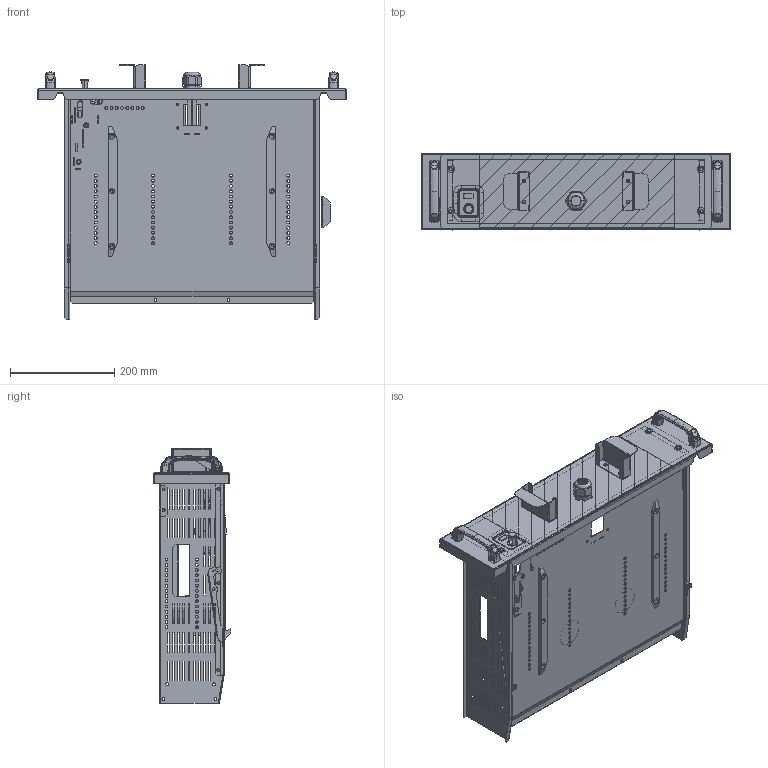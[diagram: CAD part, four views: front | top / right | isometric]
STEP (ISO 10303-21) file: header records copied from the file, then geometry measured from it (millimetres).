
FILE_DESCRIPTION(('CAx-IF Rec.Pracs.---Model Styling and Organization---1.2---2011-12-15','CAx-IF Rec.Pracs.---Geometric and Assembly Validation Properties---4.1---2014-06-16','CAx-IF Rec.Pracs.---PMI Polyline Presentation---2.0---2013-05-24'),'2;1');
FILE_NAME('R5M2W3M1BEPC.stp','2021-05-05T12:12:07+03:00',(''),(''),'STEP Interface 4.4 by CT CoreTechnologie','3D_Evolution4.4 by CT CoreTechnologie','');
FILE_SCHEMA(('AUTOMOTIVE_DESIGN { 1 0 10303 214 1 1 1 1 }'));
Length unit declared in the file: millimetre
Products named in the file (58): R5M2W3M1BEPC; Insulator ISBK_ISBK9988; RB.1775.00.00.0 ÑÁ_-00; M6x12 (A1100001)_stright; M5x16 GOST 17475-80 (DIN 965)_straight; RB.1356.00.00.0; M5x8-DIN7500C_stright; Cable clamp PG 21; RB.1775.00.01.0_-00; RB.1775.00.02.0_-00; RB.1775.01.00.0 ÑÁ; RB.1505.00.01.0; RB.1503.00.00.0 ÑÁ; RB.1503.00.01.0_-00; RB.1503.00.03.0_123; RB.1503.00.04.0_123; RB.1503.00.05.0_123; RB.1503.00.06.0_-00; RB.1503.00.07.0_-00; RB.1503.00.08.0_'­ ª«¥¥­­ ï'; M5x12-DIN 7500M ISR_stright; RB.1500.00.00.1 ÑÁ_-00 (ëª«); Ì4-GOST R 50273-92 (DIN 985)_stright DIN EN ISO 10511 - M4 - N; M4x25 GOST 17473-80 (DIN 7985)_stright; RB.1500.00.03.0; RB.1500.00.04.1_-00; RB.1500.00.05.1; RB.1500.00.06.0; RB.1500.00.07.0; RB.1500.00.08.1; M6-DIN 985 (ISO 10511) (CM250600)_stright; RB.1500.00.10.0_In prestressed condition - 30 mm; RB.1505.00.02.0; RB.1505.00.05.0_-00; RB.1501.00.00.0 ÑÁ_-00; RB.1499.00.04.0_-01; RB.1501.00.01.0_-00; M6 art.MGR-MKO-0625_2¬¬; RB.1775.02.00.0 ÑÁ_-00; RB.1499.00.01.0_-00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
Assembly tree (102 placements, depth 5):
  R5M2W3M1BEPC
    Insulator ISBK_ISBK9988  x2
    RB.1775.00.00.0 ÑÁ_-00
      M6x12 (A1100001)_stright  x4
      M5x16 GOST 17475-80 (DIN 965)_straight  x4
      RB.1356.00.00.0
      M5x8-DIN7500C_stright  x14
      Cable clamp PG 21
      RB.1775.00.01.0_-00
      RB.1775.00.02.0_-00  x2
      RB.1775.01.00.0 ÑÁ
        RB.1505.00.01.0
        RB.1503.00.00.0 ÑÁ
          RB.1503.00.01.0_-00
          RB.1503.00.03.0_123
          RB.1503.00.04.0_123
          RB.1503.00.05.0_123
          RB.1503.00.06.0_-00
          RB.1503.00.07.0_-00
        M5x12-DIN 7500M ISR_stright  x7
        RB.1500.00.00.1 ÑÁ_-00 (ëª«)
          Ì4-GOST R 50273-92 (DIN 985)_stright DIN EN ISO 10511 - M4 - N
          M4x25 GOST 17473-80 (DIN 7985)_stright
          RB.1500.00.03.0
          RB.1500.00.04.1_-00
          RB.1500.00.05.1
          RB.1500.00.06.0
          RB.1500.00.07.0
          RB.1500.00.08.1
          M6-DIN 985 (ISO 10511) (CM250600)_stright
          RB.1500.00.10.0_In prestressed condition - 30 mm
        RB.1505.00.02.0  x2
        RB.1505.00.05.0_-00
        Ì4-GOST R 50273-92 (DIN 985)_stright DIN EN ISO 10511 - M4 - N
      RB.1501.00.00.0 ÑÁ_-00
        RB.1499.00.04.0_-01
        RB.1501.00.01.0_-00
        M6 art.MGR-MKO-0625_2¬¬  x2
      RB.1775.02.00.0 ÑÁ_-00
        RB.1499.00.01.0_-00
        M6 art.MGR-MKO-0625_2¬¬  x2
        RB.1499.00.04.0_-00
        RB.1775.02.01.0
        M5x12-DIN 7500M ISR_stright  x2
        M5-DIN 985 (ISO 10511)._stright  x2
      6-DIN 6798A (CM220600)_DIN 6798-A6.4  x4
      RB.1775.03.00.0 ÑÁ_-00
        PF 7x14 RAMmcc 2.0_3å1
        AC00C061_AC00C061
        Ì6õ12-A5100231_straight
        PF 3.5x7 RAMmcc 2.0_00
        RB.1775.03.01.0_-00
      4.444.001  x2
        PR.DT477.100.02
        PR.DT477.100.01
      6-GOST 11371-78 (DIN 125) PA 6.6_6-GOST 11371-78 (DIN 125) PA 6.6  x4
      Ì5-GOST 5915-70 (DIN 934)_straight  x4
    RB.1768.00.00.0
    CNTD CMV103D_-00
      20504_01
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Bounding box: 594 x 148.93 x 488.84 mm (x, y, z)
Surface area: 1367417.6 mm2 (no closed solid volume)
Topology: 0 solids, 126 shells, 5305 faces, 13601 edges, 8432 vertices
Faces by surface type: plane 2423, bspline 1656, cylinder 1226
Full cylindrical faces by diameter (mm): 3.2 x2
Entity records: 148764 total; most frequent: CARTESIAN_POINT 51975, ORIENTED_EDGE 19794, DIRECTION 18879, EDGE_CURVE 9921, AXIS2_PLACEMENT_3D 6298, VERTEX_POINT 6284, VECTOR 6283, LINE 6283
